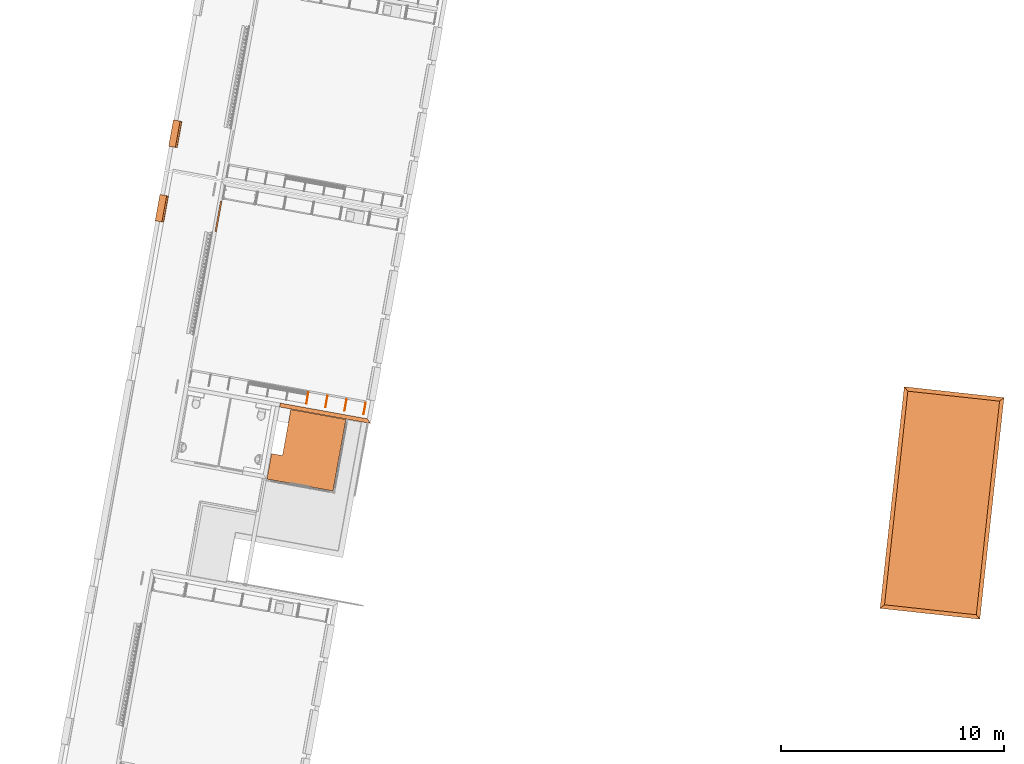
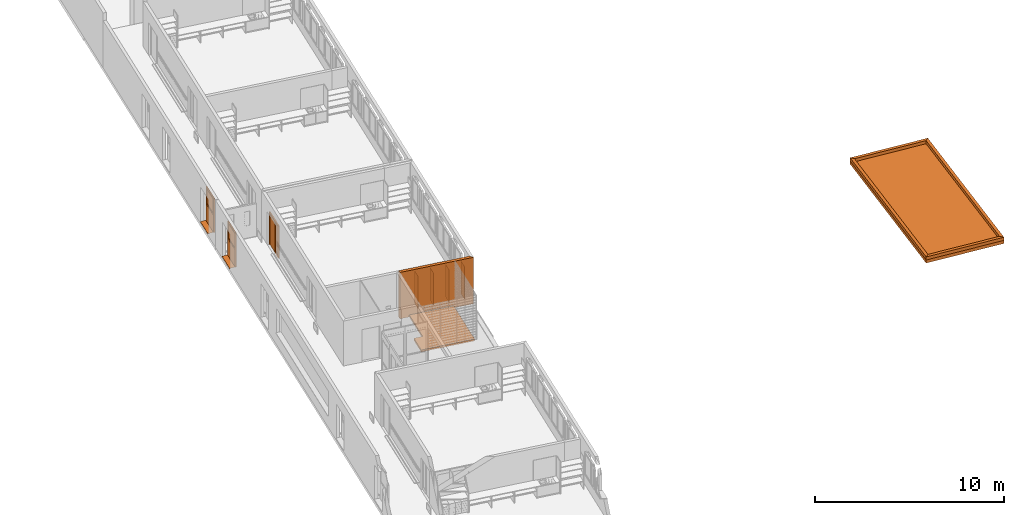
# One storey, part 18 of 52: 14 proxies.
"""IFC2X3 building model written with IfcOpenShell, lengths in metres."""

from ifc_helpers import new_model, entity, si_unit, converted_unit, derived_unit, money_unit, direction, frame, origin_with_axes, place, context, subcontext, project, spatial, polyline, outline, extrude, open_shell, faceted_brep, surface_model, source, transform, mapped, material, type_object, element, save


model = new_model("IFC2X3")

# Units and contexts
model_context = context("Model", 3, precision=1e-05, world=origin_with_axes(), true_north=direction((0.0, 1.0)))
body_context = subcontext(model_context, "Body", "Model", "MODEL_VIEW")
ifc_project = project(units=[si_unit("LENGTHUNIT", "METRE"), si_unit("AREAUNIT", "SQUARE_METRE"), si_unit("VOLUMEUNIT", "CUBIC_METRE"), converted_unit("PLANEANGLEUNIT", "DEGREE", entity("IfcPlaneAngleMeasure", 0.0174532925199), si_unit("PLANEANGLEUNIT", "RADIAN"), dimensions=[0, 0, 0, 0, 0, 0, 0]), money_unit("CHF"), converted_unit("TIMEUNIT", "Year", entity("IfcTimeMeasure", 31556926.0), si_unit("TIMEUNIT", "SECOND"), dimensions=[0, 0, 1, 0, 0, 0, 0]), si_unit("MASSUNIT", "GRAM", prefix="KILO"), si_unit("THERMODYNAMICTEMPERATUREUNIT", "DEGREE_CELSIUS"), si_unit("LUMINOUSINTENSITYUNIT", "LUMEN"), si_unit("ENERGYUNIT", "JOULE", prefix="MEGA"), derived_unit("THERMALCONDUCTANCEUNIT", [(si_unit("POWERUNIT", "WATT"), 1), (si_unit("LENGTHUNIT", "METRE"), -1), (si_unit("THERMODYNAMICTEMPERATUREUNIT", "KELVIN"), -1)]), derived_unit("SPECIFICHEATCAPACITYUNIT", [(si_unit("ENERGYUNIT", "JOULE"), 1), (si_unit("MASSUNIT", "GRAM", prefix="KILO"), -1), (si_unit("THERMODYNAMICTEMPERATUREUNIT", "KELVIN"), -1)]), derived_unit("MASSDENSITYUNIT", [(si_unit("MASSUNIT", "GRAM", prefix="KILO"), 1), (si_unit("VOLUMEUNIT", "CUBIC_METRE"), -1)])], contexts=[model_context])

# Site, building, storey
site_placement = place(None, frame((0.0, 0.0, 0.0), z_axis=(0.0, 0.0, 1.0), x_axis=(-0.177771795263, -0.984071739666, 0.0)))
site = spatial("IfcSite", under=ifc_project, at=site_placement, Name="Site", CompositionType="ELEMENT")
building_placement = place(site_placement, origin_with_axes())
building = spatial("IfcBuilding", under=site, at=building_placement, Name="Bâtiment", CompositionType="ELEMENT")
storey_placement = place(building_placement, frame((0.0, 0.0, 3.2), z_axis=(0.0, 0.0, 1.0), x_axis=(1.0, 0.0, 0.0)))
storey = spatial("IfcBuildingStorey", under=building, at=storey_placement, Name="R+1", CompositionType="ELEMENT", Elevation=3.2)

# Proxies
ifc_material_1 = material(Name="_BA banché")
building_element_proxy_type_1 = type_object("IfcBuildingElementProxyType", Name="_BA banché 180", PredefinedType="NOTDEFINED")
proxy_1_placement = place(storey_placement, frame((131.822985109, -120.356432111, -0.3), z_axis=(0.0, 0.0, 1.0), x_axis=(0.0700487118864, -0.997543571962, 0.0)))
element("IfcBuildingElementProxy", 1, at=proxy_1_placement, inside=storey, type_object=building_element_proxy_type_1, material=ifc_material_1, Name="M-acrot_BlocSanit", context=body_context, shape_type="SweptSolid", body=[
    extrude(outline(polyline([(-3.47980602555e-07, 0.0), (4.49999935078, 0.0), (4.31999935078, 0.18), (0.179999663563, 0.18), (-3.47980602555e-07, 0.0)])), origin_with_axes(), (0.0, 0.0, 1.0), 0.2),
])
proxy_2_placement = place(storey_placement, frame((141.798420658, -119.65594471, -0.3), z_axis=(0.0, 0.0, 1.0), x_axis=(0.0700487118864, -0.997543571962, 0.0)))
element("IfcBuildingElementProxy", 2, at=proxy_2_placement, inside=storey, type_object=building_element_proxy_type_1, material=ifc_material_1, Name="M-acrot_BlocSanit", context=body_context, shape_type="SweptSolid", body=[
    extrude(outline(polyline([(0.180000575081, -0.18), (4.31999964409, -0.18), (4.49999964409, 0.0), (5.86624224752e-07, 0.0), (0.180000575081, -0.18)])), origin_with_axes(), (0.0, 0.0, 1.0), 0.2),
])
proxy_3_placement = place(storey_placement, frame((131.822985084, -120.356431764, -0.3), z_axis=(0.0, 0.0, 1.0), x_axis=(0.997543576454, 0.0700486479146, 0.0)))
element("IfcBuildingElementProxy", 3, at=proxy_3_placement, inside=storey, type_object=building_element_proxy_type_1, material=ifc_material_1, Name="M-acrot_BlocSanit", context=body_context, shape_type="SweptSolid", body=[
    extrude(outline(polyline([(0.180000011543, -0.18), (9.81999986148, -0.18), (9.99999984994, 0.0), (0.0, 0.0), (0.180000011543, -0.18)])), origin_with_axes(), (0.0, 0.0, 1.0), 0.2),
])
proxy_4_placement = place(storey_placement, frame((132.138204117, -124.845377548, -0.3), z_axis=(0.0, 0.0, 1.0), x_axis=(0.997543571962, 0.0700487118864, 0.0)))
element("IfcBuildingElementProxy", 4, at=proxy_4_placement, inside=storey, type_object=building_element_proxy_type_1, material=ifc_material_1, Name="M-acrot_BlocSanit", context=body_context, shape_type="SweptSolid", body=[
    extrude(outline(polyline([(1.50062774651e-07, 0.0), (10.0, 0.0), (9.82, 0.18), (0.180000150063, 0.18), (1.50062774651e-07, 0.0)])), origin_with_axes(), (0.0, 0.0, 1.0), 0.2),
])
ifc_material_2 = material(Name="_panneau mélaminé")
building_element_proxy_type_2 = type_object("IfcBuildingElementProxyType", Name="_panneau mélaminé 19", PredefinedType="NOTDEFINED")
proxy_5_placement = place(storey_placement, frame((137.654841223, -148.506151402, 0.0), z_axis=(0.0, 0.0, 1.0), x_axis=(-1.0, 0.0, 0.0)))
element("IfcBuildingElementProxy", 5, at=proxy_5_placement, inside=storey, type_object=building_element_proxy_type_2, material=ifc_material_2, Name="cloison pl-classe", context=body_context, shape_type="SweptSolid", body=[
    extrude(outline(polyline([(0.0, -0.019), (0.520000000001, -0.019), (0.520000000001, 0.0), (0.0, 0.0), (0.0, -0.019)])), origin_with_axes(), (0.0, 0.0, 1.0), 2.1),
])
for number, where, z_axis, x_axis, name in (
    (6, (137.654841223, -149.367651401, 0.0), (0.0, 0.0, 1.0), (-1.0, 0.0, 0.0), "cloison pl-classe"),
    (7, (137.654841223, -151.107651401, 0.0), (0.0, 0.0, 1.0), (-1.0, 0.0, 0.0), "cloison pl-classe"),
    (8, (137.654841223, -150.237651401, 0.0), (0.0, 0.0, 1.0), (-1.0, 0.0, 0.0), "cloison pl-classe"),
):
    element("IfcBuildingElementProxy", number, at=place(storey_placement, frame(where, z_axis=z_axis, x_axis=x_axis)), inside=storey, type_object=building_element_proxy_type_2, material=ifc_material_2, Name=name, context=body_context, shape_type="SweptSolid", body=[
        extrude(outline(polyline([(0.0, -0.0095), (0.52, -0.0095), (0.52, 0.0095), (0.0, 0.0095), (0.0, -0.0095)])), origin_with_axes(), (0.0, 0.0, 1.0), 2.1),
    ])
ifc_material_3 = material(Name="_BA banché RAL9007")
building_element_proxy_type_3 = type_object("IfcBuildingElementProxyType", Name="_M ext 18 +18 360", PredefinedType="NOTDEFINED")
proxy_6_placement = place(storey_placement, frame((138.014841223, -152.267035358, -0.15), z_axis=(0.0, 0.0, 1.0), x_axis=(0.0, 1.0, 0.0)))
element("IfcBuildingElementProxy", 9, at=proxy_6_placement, inside=storey, type_object=building_element_proxy_type_3, material=ifc_material_3, Name="M ext-milieu", context=body_context, shape_type="SweptSolid", body=[
    extrude(outline(polyline([(0.0, 0.0), (4.14988406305, 0.0), (3.96988406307, 0.18), (0.0, 0.18), (0.0, 0.0)])), origin_with_axes(), (0.0, 0.0, 1.0), 3.0),
])
ifc_material_4 = material(Name="Matériau de construction IFC")
building_element_proxy_type_4 = type_object("IfcBuildingElementProxyType", Name="Porte avec tierce vitrée côté 2 21", PredefinedType="NOTDEFINED")
shared_shape_1 = source(origin_with_axes(), body_context, "Body", "SurfaceModel", [
    faceted_brep([(1.4, 0.18, 0.0), (1.4, 0.11, 0.0), (1.35, 0.11, 0.0), (1.35, 0.18, 0.0), (1.4, 0.18, 2.05), (1.4, 0.11, 2.05), (1.35, 0.11, 2.05), (1.35, 0.11, 0.2), (1.35, 0.18, 0.2), (1.35, 0.18, 2.05)], [[[0, 1, 2, 3]], [[4, 5, 1, 0]], [[1, 5, 6, 7, 2]], [[3, 2, 7, 8]], [[0, 3, 8, 9, 4]], [[9, 6, 5, 4]], [[8, 7, 6, 9]]]),
    faceted_brep([(0.91, 0.14, 0.0), (0.91, 0.11, 0.0), (0.91, 0.11, 2.05), (0.91, 0.14, 2.05), (0.93, 0.14, 0.0), (0.93, 0.18, 0.0), (0.96, 0.18, 0.0), (0.96, 0.11, 0.0), (0.96, 0.11, 0.2), (0.96, 0.11, 2.05), (0.93, 0.14, 2.05), (0.96, 0.18, 2.05), (0.93, 0.18, 2.05), (0.96, 0.18, 0.2)], [[[0, 1, 2, 3]], [[4, 5, 6, 7, 1, 0]], [[7, 8, 9, 2, 1]], [[10, 3, 2, 9, 11, 12]], [[10, 4, 0, 3]], [[12, 5, 4, 10]], [[12, 11, 13, 6, 5]], [[6, 13, 8, 7]], [[13, 11, 9, 8]]]),
    faceted_brep([(1.35, 0.18, 0.2), (1.35, 0.11, 0.2), (1.35, 0.11, 0.0), (1.35, 0.18, 0.0), (0.96, 0.18, 0.2), (0.96, 0.11, 0.2), (0.96, 0.11, 0.0), (0.96, 0.18, 0.0)], [[[0, 1, 2, 3]], [[4, 5, 1, 0]], [[1, 5, 6, 2]], [[3, 2, 6, 7]], [[0, 3, 7, 4]], [[7, 6, 5, 4]]]),
    faceted_brep([(0.03, 0.14, 2.05), (0.03, 0.18, 2.05), (0.0, 0.18, 2.05), (0.0, 0.11, 2.05), (0.05, 0.11, 2.05), (0.05, 0.14, 2.05), (0.03, 0.14, 0.0), (0.03, 0.18, 0.0), (0.0, 0.18, 0.0), (0.0, 0.11, 0.0), (0.05, 0.11, 0.0), (0.05, 0.14, 0.0)], [[[0, 1, 2, 3, 4, 5]], [[0, 6, 7, 1]], [[7, 8, 2, 1]], [[2, 8, 9, 3]], [[3, 9, 10, 4]], [[5, 4, 10, 11]], [[5, 11, 6, 0]], [[6, 11, 10, 9, 8, 7]]]),
    faceted_brep([(0.93, 0.18, 2.07), (0.03, 0.18, 2.07), (0.03, 0.18, 2.05), (0.0, 0.18, 2.05), (0.0, 0.18, 2.1), (1.4, 0.18, 2.1), (1.4, 0.18, 2.05), (1.35, 0.18, 2.05), (0.96, 0.18, 2.05), (0.93, 0.18, 2.05), (0.93, 0.14, 2.07), (0.03, 0.14, 2.07), (0.03, 0.14, 2.05), (0.05, 0.14, 2.05), (0.05, 0.11, 2.05), (0.0, 0.11, 2.05), (0.0, 0.11, 2.1), (1.4, 0.11, 2.1), (1.4, 0.11, 2.05), (1.35, 0.11, 2.05), (0.96, 0.11, 2.05), (0.93, 0.14, 2.05), (0.91, 0.11, 2.05)], [[[0, 1, 2, 3, 4, 5, 6, 7, 8, 9]], [[0, 10, 11, 1]], [[1, 11, 12, 2]], [[12, 13, 14, 15, 3, 2]], [[4, 3, 15, 16]], [[5, 4, 16, 17]], [[6, 5, 17, 18]], [[7, 6, 18, 19]], [[8, 7, 19, 20]], [[21, 9, 8, 20, 22, 14, 13]], [[9, 21, 10, 0]], [[12, 11, 10, 21, 13]], [[14, 22, 20, 19, 18, 17, 16, 15]]]),
    faceted_brep([(0.03, 0.18, 0.0), (0.93, 0.18, 0.0), (0.93, 0.14, 0.0), (0.03, 0.14, 0.0), (0.03, 0.18, 2.07), (0.93, 0.18, 2.07), (0.93, 0.14, 2.07), (0.03, 0.14, 2.07)], [[[0, 1, 2, 3]], [[0, 4, 5, 1]], [[1, 5, 6, 2]], [[3, 2, 6, 7]], [[4, 0, 3, 7]], [[5, 4, 7, 6]]]),
    surface_model("IfcShellBasedSurfaceModel", [(1.35, 0.145, 0.2), (0.96, 0.145, 0.2), (0.96, 0.145, 2.05), (1.35, 0.145, 2.05)], [open_shell([[[0, 1, 2, 3]]])]),
    surface_model("IfcShellBasedSurfaceModel", [(1.35, 0.135, 0.2), (1.35, 0.135, 2.05), (0.96, 0.135, 2.05), (0.96, 0.135, 0.2)], [open_shell([[[0, 1, 2, 3]]])]),
])
proxy_7_placement = place(storey_placement, frame((129.384841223, -156.6271514, 0.0), z_axis=(0.0, 0.0, 1.0), x_axis=(1.0, 0.0, 0.0)))
element("IfcBuildingElementProxy", 10, at=proxy_7_placement, inside=storey, type_object=building_element_proxy_type_4, material=ifc_material_4, Name="15", context=body_context, shape_type="MappedRepresentation", body=[
    mapped(shared_shape_1, transform((0.0, 0.0, 0.0))),
])
building_element_proxy_type_5 = type_object("IfcBuildingElementProxyType", Name="_Dalle-flott 2+13 150", PredefinedType="NOTDEFINED")
proxy_8_placement = place(storey_placement, frame((138.034841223, -149.237151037, -0.15), z_axis=(0.0, 0.0, 1.0), x_axis=(1.0, 0.0, 0.0)))
element("IfcBuildingElementProxy", 11, at=proxy_8_placement, inside=storey, type_object=building_element_proxy_type_5, material=ifc_material_1, Name="dalle-flottante CTA", context=body_context, shape_type="SweptSolid", body=[
    extrude(outline(polyline([(0.0, 0.0), (0.0, -2.50999994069), (0.659999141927, -2.50999994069), (2.0999991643, -2.50999994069), (2.0999991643, -3.00999992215), (3.26000000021, -3.00999992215), (3.25999999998, 5.04792296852e-09), (0.0, 0.0)])), frame((0.0, 0.0, 0.02), z_axis=(0.0, 0.0, 1.0), x_axis=(1.0, 0.0, 0.0)), (0.0, 0.0, 1.0), 0.13),
])
building_element_proxy_type_6 = type_object("IfcBuildingElementProxyType", Name="Fenêtre variable 21", PredefinedType="NOTDEFINED")
shared_shape_2 = source(origin_with_axes(), body_context, "Body", "SurfaceModel", [
    surface_model("IfcShellBasedSurfaceModel", [(0.0, 0.284, 0.02), (0.0, 0.284, 0.01), (1.2, 0.284, 0.01), (1.2, 0.284, 0.02), (0.0, -0.025, -0.00087719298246), (1.2, -0.025, -0.00087719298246), (0.0, -0.025, -0.0308771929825), (1.2, -0.025, -0.0308771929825), (0.0, -0.0125, -0.0183771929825), (1.2, -0.0125, -0.0183771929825)], [open_shell([[[0, 1, 2, 3]], [[1, 4, 5, 2]], [[4, 6, 7, 5]], [[6, 8, 9, 7]]])]),
    faceted_brep([(0.02, 0.36, 2.169), (0.0, 0.36, 2.169), (0.0, 0.285, 2.169), (0.03, 0.285, 2.169), (0.03, 0.295, 2.169), (0.02, 0.295, 2.169), (0.02, 0.36, 1.095), (0.03, 0.36, 1.095), (0.03, 0.36, 1.055), (0.03, 0.36, 0.05), (0.0, 0.36, 0.05), (0.0, 0.285, 0.05), (0.03, 0.285, 1.105), (0.03, 0.285, 0.05), (0.03, 0.285, 1.055), (0.03, 0.295, 1.105), (0.03, 0.295, 1.095), (0.02, 0.295, 1.095)], [[[0, 1, 2, 3, 4, 5]], [[6, 7, 8, 9, 10, 1, 0]], [[1, 10, 11, 2]], [[12, 3, 2, 11, 13, 14]], [[4, 3, 12, 15]], [[15, 16, 17, 5, 4]], [[5, 17, 6, 0]], [[6, 17, 16, 7]], [[16, 15, 12, 14, 8, 7]], [[9, 8, 14, 13]], [[10, 9, 13, 11]]]),
    faceted_brep([(1.17, 0.295, 2.169), (1.17, 0.285, 2.169), (1.2, 0.285, 2.169), (1.2, 0.36, 2.169), (1.18, 0.36, 2.169), (1.18, 0.295, 2.169), (1.17, 0.295, 1.105), (1.17, 0.285, 1.105), (1.2, 0.285, 0.05), (1.17, 0.285, 1.055), (1.17, 0.285, 0.05), (1.2, 0.36, 0.05), (1.18, 0.36, 1.095), (1.17, 0.36, 0.05), (1.17, 0.36, 1.055), (1.17, 0.36, 1.095), (1.18, 0.295, 1.095), (1.17, 0.295, 1.095)], [[[0, 1, 2, 3, 4, 5]], [[6, 7, 1, 0]], [[8, 2, 1, 7, 9, 10]], [[11, 3, 2, 8]], [[12, 4, 3, 11, 13, 14, 15]], [[12, 16, 5, 4]], [[5, 16, 17, 6, 0]], [[17, 15, 14, 9, 7, 6]], [[14, 13, 10, 9]], [[13, 11, 8, 10]], [[15, 17, 16, 12]]]),
    faceted_brep([(0.03, 0.295, 1.105), (0.03, 0.285, 1.105), (1.17, 0.285, 1.105), (1.17, 0.295, 1.105), (0.03, 0.295, 1.095), (0.03, 0.36, 1.095), (0.03, 0.36, 1.055), (0.03, 0.285, 1.055), (1.17, 0.285, 1.055), (1.17, 0.295, 1.095), (1.17, 0.36, 1.055), (1.17, 0.36, 1.095)], [[[0, 1, 2, 3]], [[4, 5, 6, 7, 1, 0]], [[8, 2, 1, 7]], [[9, 3, 2, 8, 10, 11]], [[9, 4, 0, 3]], [[5, 4, 9, 11]], [[11, 10, 6, 5]], [[6, 10, 8, 7]]]),
    faceted_brep([(0.02, 0.36, 2.169), (0.0, 0.36, 2.169), (0.0, 0.36, 2.199), (1.2, 0.36, 2.199), (1.2, 0.36, 2.169), (1.18, 0.36, 2.169), (1.18, 0.36, 2.179), (0.02, 0.36, 2.179), (0.02, 0.295, 2.169), (0.03, 0.295, 2.169), (0.03, 0.285, 2.169), (0.0, 0.285, 2.169), (0.0, 0.285, 2.199), (1.2, 0.285, 2.199), (1.2, 0.285, 2.169), (1.18, 0.295, 2.169), (1.17, 0.285, 2.169), (1.17, 0.295, 2.169), (1.18, 0.295, 2.179), (0.02, 0.295, 2.179)], [[[0, 1, 2, 3, 4, 5, 6, 7]], [[8, 9, 10, 11, 1, 0]], [[2, 1, 11, 12]], [[3, 2, 12, 13]], [[4, 3, 13, 14]], [[15, 5, 4, 14, 16, 17]], [[5, 15, 18, 6]], [[6, 18, 19, 7]], [[7, 19, 8, 0]], [[17, 9, 8, 19, 18, 15]], [[17, 16, 10, 9]], [[14, 13, 12, 11, 10, 16]]]),
    faceted_brep([(0.03, 0.285, 0.05), (0.03, 0.36, 0.05), (0.0, 0.36, 0.05), (0.0, 0.285, 0.05), (1.17, 0.285, 0.05), (1.17, 0.36, 0.05), (1.2, 0.36, 0.05), (1.2, 0.36, 0.0), (0.0, 0.36, 0.0), (0.0, 0.285, 0.0), (1.2, 0.285, 0.0), (1.2, 0.285, 0.05)], [[[0, 1, 2, 3]], [[4, 5, 1, 0]], [[1, 5, 6, 7, 8, 2]], [[3, 2, 8, 9]], [[0, 3, 9, 10, 11, 4]], [[11, 6, 5, 4]], [[10, 7, 6, 11]], [[9, 8, 7, 10]]]),
    faceted_brep([(0.08, 0.295, 2.119), (0.08, 0.37, 2.119), (0.02, 0.37, 2.119), (0.02, 0.295, 2.119), (0.08, 0.295, 1.155), (0.08, 0.37, 1.155), (0.02, 0.37, 1.155), (0.02, 0.295, 1.155)], [[[0, 1, 2, 3]], [[4, 5, 1, 0]], [[1, 5, 6, 2]], [[3, 2, 6, 7]], [[0, 3, 7, 4]], [[7, 6, 5, 4]]]),
    faceted_brep([(1.12, 0.295, 1.155), (1.12, 0.37, 1.155), (1.18, 0.37, 1.155), (1.18, 0.295, 1.155), (1.12, 0.295, 2.119), (1.12, 0.37, 2.119), (1.18, 0.37, 2.119), (1.18, 0.295, 2.119)], [[[0, 1, 2, 3]], [[4, 5, 1, 0]], [[1, 5, 6, 2]], [[3, 2, 6, 7]], [[0, 3, 7, 4]], [[7, 6, 5, 4]]]),
    faceted_brep([(1.18, 0.295, 1.095), (1.18, 0.37, 1.095), (1.18, 0.37, 1.155), (1.18, 0.295, 1.155), (0.02, 0.295, 1.095), (0.02, 0.37, 1.095), (0.02, 0.37, 1.155), (0.08, 0.37, 1.155), (1.12, 0.37, 1.155), (1.12, 0.295, 1.155), (0.08, 0.295, 1.155), (0.02, 0.295, 1.155)], [[[0, 1, 2, 3]], [[4, 5, 1, 0]], [[1, 5, 6, 7, 8, 2]], [[3, 2, 8, 9]], [[0, 3, 9, 10, 11, 4]], [[11, 6, 5, 4]], [[10, 7, 6, 11]], [[9, 8, 7, 10]]]),
    faceted_brep([(0.02, 0.295, 2.179), (0.02, 0.37, 2.179), (0.02, 0.37, 2.119), (0.02, 0.295, 2.119), (1.18, 0.295, 2.179), (1.18, 0.37, 2.179), (1.18, 0.37, 2.119), (1.12, 0.37, 2.119), (0.08, 0.37, 2.119), (0.08, 0.295, 2.119), (1.12, 0.295, 2.119), (1.18, 0.295, 2.119)], [[[0, 1, 2, 3]], [[4, 5, 1, 0]], [[1, 5, 6, 7, 8, 2]], [[3, 2, 8, 9]], [[0, 3, 9, 10, 11, 4]], [[11, 6, 5, 4]], [[10, 7, 6, 11]], [[9, 8, 7, 10]]]),
    surface_model("IfcShellBasedSurfaceModel", [(0.08, 0.3225, 1.155), (1.12, 0.3225, 1.155), (1.12, 0.3225, 2.119), (0.08, 0.3225, 2.119)], [open_shell([[[0, 1, 2, 3]]])]),
    surface_model("IfcShellBasedSurfaceModel", [(0.08, 0.3425, 1.155), (0.08, 0.3425, 2.119), (1.12, 0.3425, 2.119), (1.12, 0.3425, 1.155)], [open_shell([[[0, 1, 2, 3]]])]),
    surface_model("IfcShellBasedSurfaceModel", [(0.03, 0.285, 0.05), (1.17, 0.285, 0.05), (1.17, 0.285, 1.055), (0.03, 0.285, 1.055)], [open_shell([[[0, 1, 2, 3]]])]),
    surface_model("IfcShellBasedSurfaceModel", [(0.03, 0.305, 0.05), (0.03, 0.305, 1.055), (1.17, 0.305, 1.055), (1.17, 0.305, 0.05)], [open_shell([[[0, 1, 2, 3]]])]),
])
proxy_9_placement = place(storey_placement, frame((129.584841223, -159.217107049, 0.001), z_axis=(0.0, 0.0, 1.0), x_axis=(1.0, 0.0, 0.0)))
element("IfcBuildingElementProxy", 12, at=proxy_9_placement, inside=storey, type_object=building_element_proxy_type_6, material=ifc_material_4, Name="Fen couloir", context=body_context, shape_type="MappedRepresentation", body=[
    mapped(shared_shape_2, transform((0.0, 0.0, 0.0))),
])
shared_shape_3 = source(origin_with_axes(), body_context, "Body", "SurfaceModel", [
    surface_model("IfcShellBasedSurfaceModel", [(1.2, 0.284, 0.02), (0.0, 0.284, 0.02), (0.0, 0.284, 0.01), (1.2, 0.284, 0.01), (0.0, -0.025, -0.00087719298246), (1.2, -0.025, -0.00087719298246), (0.0, -0.025, -0.0308771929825), (1.2, -0.025, -0.0308771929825), (0.0, -0.0125, -0.0183771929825), (1.2, -0.0125, -0.0183771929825)], [open_shell([[[0, 1, 2, 3]], [[3, 2, 4, 5]], [[5, 4, 6, 7]], [[7, 6, 8, 9]]])]),
    faceted_brep([(1.18, 0.36, 2.169), (1.18, 0.295, 2.169), (1.17, 0.295, 2.169), (1.17, 0.285, 2.169), (1.2, 0.285, 2.169), (1.2, 0.36, 2.169), (1.18, 0.36, 1.095), (1.18, 0.295, 1.095), (1.17, 0.295, 1.105), (1.17, 0.295, 1.095), (1.17, 0.285, 1.105), (1.17, 0.285, 1.055), (1.17, 0.285, 0.05), (1.2, 0.285, 0.05), (1.2, 0.36, 0.05), (1.17, 0.36, 0.05), (1.17, 0.36, 1.055), (1.17, 0.36, 1.095)], [[[0, 1, 2, 3, 4, 5]], [[1, 0, 6, 7]], [[8, 2, 1, 7, 9]], [[2, 8, 10, 3]], [[10, 11, 12, 13, 4, 3]], [[5, 4, 13, 14]], [[6, 0, 5, 14, 15, 16, 17]], [[6, 17, 9, 7]], [[9, 17, 16, 11, 10, 8]], [[15, 12, 11, 16]], [[14, 13, 12, 15]]]),
    faceted_brep([(0.03, 0.295, 2.169), (0.02, 0.295, 2.169), (0.02, 0.36, 2.169), (0.0, 0.36, 2.169), (0.0, 0.285, 2.169), (0.03, 0.285, 2.169), (0.03, 0.295, 1.105), (0.03, 0.295, 1.095), (0.02, 0.295, 1.095), (0.02, 0.36, 1.095), (0.03, 0.36, 1.095), (0.03, 0.36, 1.055), (0.03, 0.36, 0.05), (0.0, 0.36, 0.05), (0.0, 0.285, 0.05), (0.03, 0.285, 0.05), (0.03, 0.285, 1.055), (0.03, 0.285, 1.105)], [[[0, 1, 2, 3, 4, 5]], [[1, 0, 6, 7, 8]], [[9, 2, 1, 8]], [[9, 10, 11, 12, 13, 3, 2]], [[13, 14, 4, 3]], [[14, 15, 16, 17, 5, 4]], [[6, 0, 5, 17]], [[7, 6, 17, 16, 11, 10]], [[10, 9, 8, 7]], [[11, 16, 15, 12]], [[12, 15, 14, 13]]]),
    faceted_brep([(1.17, 0.295, 1.105), (0.03, 0.295, 1.105), (0.03, 0.285, 1.105), (1.17, 0.285, 1.105), (0.03, 0.295, 1.095), (1.17, 0.295, 1.095), (0.03, 0.36, 1.095), (0.03, 0.36, 1.055), (0.03, 0.285, 1.055), (1.17, 0.285, 1.055), (1.17, 0.36, 1.055), (1.17, 0.36, 1.095)], [[[0, 1, 2, 3]], [[4, 1, 0, 5]], [[4, 6, 7, 8, 2, 1]], [[8, 9, 3, 2]], [[5, 0, 3, 9, 10, 11]], [[11, 6, 4, 5]], [[6, 11, 10, 7]], [[10, 9, 8, 7]]]),
    faceted_brep([(1.18, 0.36, 2.169), (1.18, 0.36, 2.179), (0.02, 0.36, 2.179), (0.02, 0.36, 2.169), (0.0, 0.36, 2.169), (0.0, 0.36, 2.199), (1.2, 0.36, 2.199), (1.2, 0.36, 2.169), (1.18, 0.295, 2.169), (1.18, 0.295, 2.179), (0.02, 0.295, 2.179), (0.02, 0.295, 2.169), (0.03, 0.295, 2.169), (0.03, 0.285, 2.169), (0.0, 0.285, 2.169), (0.0, 0.285, 2.199), (1.2, 0.285, 2.199), (1.2, 0.285, 2.169), (1.17, 0.285, 2.169), (1.17, 0.295, 2.169)], [[[0, 1, 2, 3, 4, 5, 6, 7]], [[1, 0, 8, 9]], [[2, 1, 9, 10]], [[3, 2, 10, 11]], [[11, 12, 13, 14, 4, 3]], [[4, 14, 15, 5]], [[5, 15, 16, 6]], [[6, 16, 17, 7]], [[8, 0, 7, 17, 18, 19]], [[12, 11, 10, 9, 8, 19]], [[12, 19, 18, 13]], [[14, 13, 18, 17, 16, 15]]]),
    faceted_brep([(1.17, 0.285, 0.05), (1.2, 0.285, 0.05), (1.2, 0.36, 0.05), (1.17, 0.36, 0.05), (0.03, 0.285, 0.05), (0.0, 0.285, 0.05), (0.0, 0.285, 0.0), (1.2, 0.285, 0.0), (1.2, 0.36, 0.0), (0.0, 0.36, 0.0), (0.0, 0.36, 0.05), (0.03, 0.36, 0.05)], [[[0, 1, 2, 3]], [[0, 4, 5, 6, 7, 1]], [[1, 7, 8, 2]], [[3, 2, 8, 9, 10, 11]], [[4, 0, 3, 11]], [[5, 4, 11, 10]], [[6, 5, 10, 9]], [[7, 6, 9, 8]]]),
    faceted_brep([(1.12, 0.295, 2.119), (1.18, 0.295, 2.119), (1.18, 0.37, 2.119), (1.12, 0.37, 2.119), (1.12, 0.295, 1.155), (1.18, 0.295, 1.155), (1.18, 0.37, 1.155), (1.12, 0.37, 1.155)], [[[0, 1, 2, 3]], [[0, 4, 5, 1]], [[1, 5, 6, 2]], [[3, 2, 6, 7]], [[4, 0, 3, 7]], [[5, 4, 7, 6]]]),
    faceted_brep([(0.08, 0.295, 1.155), (0.02, 0.295, 1.155), (0.02, 0.37, 1.155), (0.08, 0.37, 1.155), (0.08, 0.295, 2.119), (0.02, 0.295, 2.119), (0.02, 0.37, 2.119), (0.08, 0.37, 2.119)], [[[0, 1, 2, 3]], [[0, 4, 5, 1]], [[1, 5, 6, 2]], [[3, 2, 6, 7]], [[4, 0, 3, 7]], [[5, 4, 7, 6]]]),
    faceted_brep([(0.02, 0.295, 1.095), (0.02, 0.295, 1.155), (0.02, 0.37, 1.155), (0.02, 0.37, 1.095), (1.18, 0.295, 1.095), (1.18, 0.295, 1.155), (1.12, 0.295, 1.155), (0.08, 0.295, 1.155), (0.08, 0.37, 1.155), (1.12, 0.37, 1.155), (1.18, 0.37, 1.155), (1.18, 0.37, 1.095)], [[[0, 1, 2, 3]], [[0, 4, 5, 6, 7, 1]], [[1, 7, 8, 2]], [[3, 2, 8, 9, 10, 11]], [[4, 0, 3, 11]], [[5, 4, 11, 10]], [[6, 5, 10, 9]], [[7, 6, 9, 8]]]),
    faceted_brep([(1.18, 0.295, 2.179), (1.18, 0.295, 2.119), (1.18, 0.37, 2.119), (1.18, 0.37, 2.179), (0.02, 0.295, 2.179), (0.02, 0.295, 2.119), (0.08, 0.295, 2.119), (1.12, 0.295, 2.119), (1.12, 0.37, 2.119), (0.08, 0.37, 2.119), (0.02, 0.37, 2.119), (0.02, 0.37, 2.179)], [[[0, 1, 2, 3]], [[0, 4, 5, 6, 7, 1]], [[1, 7, 8, 2]], [[3, 2, 8, 9, 10, 11]], [[4, 0, 3, 11]], [[5, 4, 11, 10]], [[6, 5, 10, 9]], [[7, 6, 9, 8]]]),
    surface_model("IfcShellBasedSurfaceModel", [(1.12, 0.3225, 1.155), (1.12, 0.3225, 2.119), (0.08, 0.3225, 2.119), (0.08, 0.3225, 1.155)], [open_shell([[[0, 1, 2, 3]]])]),
    surface_model("IfcShellBasedSurfaceModel", [(1.12, 0.3425, 1.155), (0.08, 0.3425, 1.155), (0.08, 0.3425, 2.119), (1.12, 0.3425, 2.119)], [open_shell([[[0, 1, 2, 3]]])]),
    surface_model("IfcShellBasedSurfaceModel", [(1.17, 0.285, 0.05), (1.17, 0.285, 1.055), (0.03, 0.285, 1.055), (0.03, 0.285, 0.05)], [open_shell([[[0, 1, 2, 3]]])]),
    surface_model("IfcShellBasedSurfaceModel", [(1.17, 0.305, 0.05), (0.03, 0.305, 0.05), (0.03, 0.305, 1.055), (1.17, 0.305, 1.055)], [open_shell([[[0, 1, 2, 3]]])]),
])
proxy_10_placement = place(storey_placement, frame((126.184841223, -159.217107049, 0.001), z_axis=(0.0, 0.0, 1.0), x_axis=(1.0, 0.0, 0.0)))
element("IfcBuildingElementProxy", 13, at=proxy_10_placement, inside=storey, type_object=building_element_proxy_type_6, material=ifc_material_4, Name="Fen couloir", context=body_context, shape_type="MappedRepresentation", body=[
    mapped(shared_shape_3, transform((0.0, 0.0, 0.0))),
])
building_element_proxy_type_7 = type_object("IfcBuildingElementProxyType", Name="_DalleToit 20+10+2 gris 340", PredefinedType="NOTDEFINED")
proxy_11_placement = place(storey_placement, frame((142.113640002, -124.144890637, -0.28), z_axis=(0.0, 0.0, 1.0), x_axis=(1.0, 0.0, 0.0)))
element("IfcBuildingElementProxy", 14, at=proxy_11_placement, inside=storey, type_object=building_element_proxy_type_7, material=ifc_material_1, Name="Toit_BlocSanit", context=body_context, shape_type="SweptSolid", body=[
    extrude(outline(polyline([(0.0, 0.0), (-0.315219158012, 4.48894542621), (-10.2906549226, 3.78845894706), (-9.97543571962, -0.700487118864), (0.0, 0.0)])), frame((0.0, 0.0, -0.22), z_axis=(0.0, 0.0, 1.0), x_axis=(1.0, 0.0, 0.0)), (0.0, 0.0, 1.0), 0.2),
])

save(model, "model.ifc")
